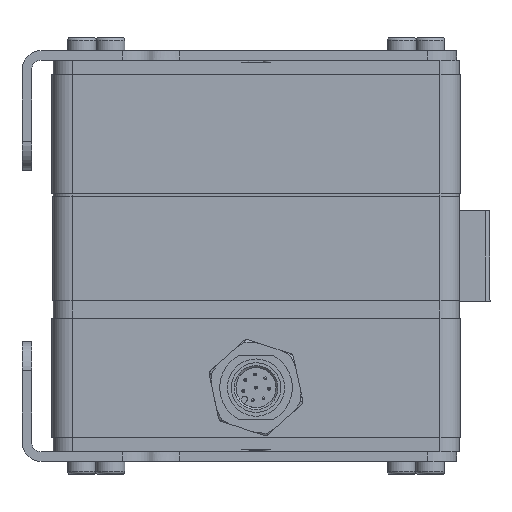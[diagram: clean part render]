
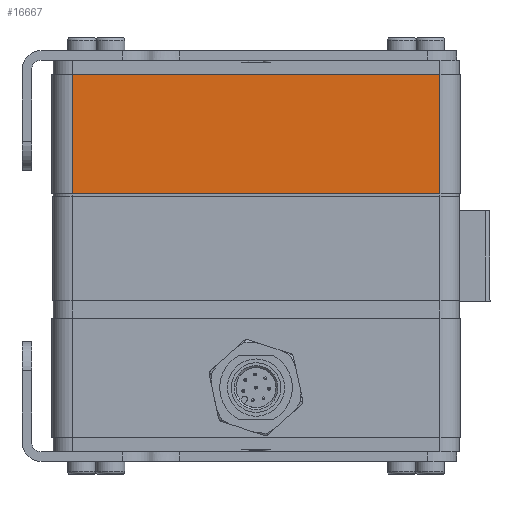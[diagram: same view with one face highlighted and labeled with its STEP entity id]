
A CAD part, left-side view. The second image highlights one B-rep face of the part: STEP entity #16667.
In plain terms, the highlighted planar face has unit normal (-1, 0, 0).
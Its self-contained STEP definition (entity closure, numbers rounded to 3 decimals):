
#16609=CARTESIAN_POINT('',(-42.725,-38.5,0.5));
#16610=VERTEX_POINT('',#16609);
#16619=CARTESIAN_POINT('',(-42.725,-38.5,25.5));
#16620=VERTEX_POINT('',#16619);
#16628=CARTESIAN_POINT('',(-42.725,-38.5,25.5));
#16629=DIRECTION('',(0.0,0.0,-1.0));
#16630=VECTOR('',#16629,25.);
#16631=LINE('',#16628,#16630);
#16632=EDGE_CURVE('',#16620,#16610,#16631,.T.);
#16637=CARTESIAN_POINT('',(-42.725,-42.5,0.));
#16638=DIRECTION('',(-1.0,0.0,0.0));
#16639=DIRECTION('',(0.0,0.0,1.0));
#16640=AXIS2_PLACEMENT_3D('',#16637,#16638,#16639);
#16641=PLANE('',#16640);
#16642=CARTESIAN_POINT('',(-42.725,38.5,0.5));
#16643=VERTEX_POINT('',#16642);
#16644=CARTESIAN_POINT('',(-42.725,38.5,0.5));
#16645=DIRECTION('',(0.0,-1.0,0.0));
#16646=VECTOR('',#16645,77.0);
#16647=LINE('',#16644,#16646);
#16648=EDGE_CURVE('',#16643,#16610,#16647,.T.);
#16649=ORIENTED_EDGE('',*,*,#16648,.T.);
#16650=ORIENTED_EDGE('',*,*,#16632,.F.);
#16651=CARTESIAN_POINT('',(-42.725,38.5,25.5));
#16652=VERTEX_POINT('',#16651);
#16653=CARTESIAN_POINT('',(-42.725,-38.5,25.5));
#16654=DIRECTION('',(0.0,1.0,0.0));
#16655=VECTOR('',#16654,77.0);
#16656=LINE('',#16653,#16655);
#16657=EDGE_CURVE('',#16620,#16652,#16656,.T.);
#16658=ORIENTED_EDGE('',*,*,#16657,.T.);
#16659=CARTESIAN_POINT('',(-42.725,38.5,0.5));
#16660=DIRECTION('',(0.0,0.0,1.0));
#16661=VECTOR('',#16660,25.);
#16662=LINE('',#16659,#16661);
#16663=EDGE_CURVE('',#16643,#16652,#16662,.T.);
#16664=ORIENTED_EDGE('',*,*,#16663,.F.);
#16665=EDGE_LOOP('',(#16649,#16650,#16658,#16664));
#16666=FACE_OUTER_BOUND('',#16665,.T.);
#16667=ADVANCED_FACE('',(#16666),#16641,.T.);
